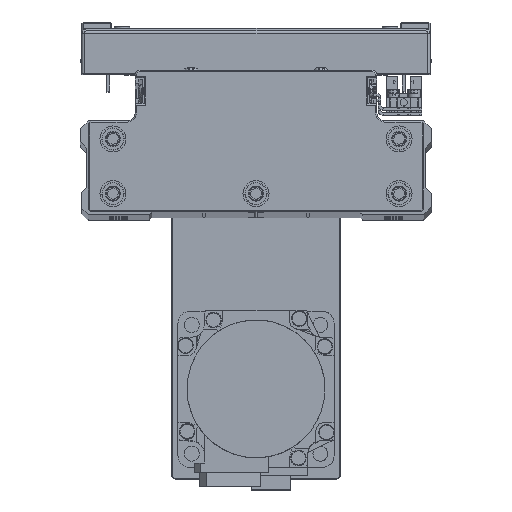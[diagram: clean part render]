
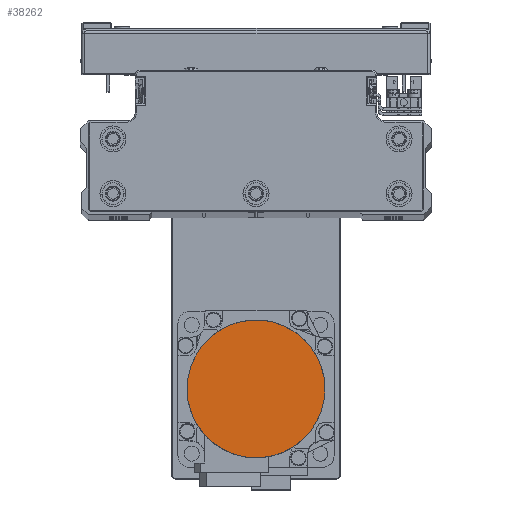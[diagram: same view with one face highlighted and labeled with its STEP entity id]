
A CAD part, top view. The second image highlights one B-rep face of the part: STEP entity #38262.
In plain terms, the highlighted planar face has unit normal (0, 0, 1) as drawn and (0, 0, -1) by its records, which use the part's own axes.
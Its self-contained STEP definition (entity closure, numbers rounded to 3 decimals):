
#388 = CARTESIAN_POINT ( 'NONE',  ( -26.329, -3.469, -109.7 ) ) ;
#619 = CARTESIAN_POINT ( 'NONE',  ( -3.469, -26.329, -109.7 ) ) ;
#645 = EDGE_CURVE ( 'NONE', #42528, #25413, #13534, .T. ) ;
#836 = CARTESIAN_POINT ( 'NONE',  ( 23.819, -11.744, -109.7 ) ) ;
#1068 = CARTESIAN_POINT ( 'NONE',  ( 19.965, 17.512, -109.7 ) ) ;
#1300 = CARTESIAN_POINT ( 'NONE',  ( -11.744, 23.819, -109.7 ) ) ;
#1998 = ORIENTED_EDGE ( 'NONE', *, *, #42214, .F. ) ;
#4004 = CARTESIAN_POINT ( 'NONE',  ( -11.744, -23.819, -109.7 ) ) ;
#4230 = CARTESIAN_POINT ( 'NONE',  ( 19.965, -17.512, -109.7 ) ) ;
#4456 = CARTESIAN_POINT ( 'NONE',  ( 23.819, 11.744, -109.7 ) ) ;
#4639 = ORIENTED_EDGE ( 'NONE', *, *, #645, .F. ) ;
#4676 = CARTESIAN_POINT ( 'NONE',  ( -3.469, 26.329, -109.7 ) ) ;
#4903 = CARTESIAN_POINT ( 'NONE',  ( -26.329, 3.469, -109.7 ) ) ;
#7367 = CARTESIAN_POINT ( 'NONE',  ( -17.512, -19.965, -109.7 ) ) ;
#7600 = CARTESIAN_POINT ( 'NONE',  ( 13.28, -22.998, -109.7 ) ) ;
#7836 = CARTESIAN_POINT ( 'NONE',  ( 26.329, 3.469, -109.7 ) ) ;
#8044 = CARTESIAN_POINT ( 'NONE',  ( 3.469, 26.329, -109.7 ) ) ;
#8266 = CARTESIAN_POINT ( 'NONE',  ( -23.819, 11.744, -109.7 ) ) ;
#10771 = CARTESIAN_POINT ( 'NONE',  ( -22.998, -13.28, -109.7 ) ) ;
#10982 = CARTESIAN_POINT ( 'NONE',  ( 6.871, -25.652, -109.7 ) ) ;
#11115 = CARTESIAN_POINT ( 'NONE',  ( 0., 0., -109.7 ) ) ;
#11209 = CARTESIAN_POINT ( 'NONE',  ( 26.5, -1.734, -109.7 ) ) ;
#11442 = CARTESIAN_POINT ( 'NONE',  ( 11.744, 23.819, -109.7 ) ) ;
#11650 = CARTESIAN_POINT ( 'NONE',  ( -19.965, 17.512, -109.7 ) ) ;
#13534 = B_SPLINE_CURVE_WITH_KNOTS ( 'NONE', 3,
 ( #25005, #38770, #7836, #21608, #35376, #4456, #18186, #31990, #1068, #14823, #28614, #42377, #11442, #25225, #38983, #8044, #21810, #35584, #4676, #18418, #32229, #1300, #15042, #28830, #42595, #11650, #25424, #39197, #8266, #22045, #35816, #4903, #18643, #32443 ),
 .UNSPECIFIED., .F., .F.,
 ( 4, 2, 2, 2, 2, 2, 2, 2, 2, 2, 2, 2, 2, 2, 2, 2, 4 ),
 ( 0., 0.062, 0.125, 0.187, 0.25, 0.312, 0.375, 0.437, 0.5, 0.562, 0.625, 0.687, 0.75, 0.813, 0.875, 0.938, 1. ),
 .UNSPECIFIED. ) ;
#14148 = CARTESIAN_POINT ( 'NONE',  ( -25.652, -6.871, -109.7 ) ) ;
#14371 = CARTESIAN_POINT ( 'NONE',  ( -1.734, -26.5, -109.7 ) ) ;
#14578 = CARTESIAN_POINT ( 'NONE',  ( 25.147, -8.539, -109.7 ) ) ;
#14823 = CARTESIAN_POINT ( 'NONE',  ( 17.512, 19.965, -109.7 ) ) ;
#15042 = CARTESIAN_POINT ( 'NONE',  ( -13.28, 22.998, -109.7 ) ) ;
#17508 = CARTESIAN_POINT ( 'NONE',  ( -26.5, 0., -109.7 ) ) ;
#17743 = CARTESIAN_POINT ( 'NONE',  ( -8.539, -25.147, -109.7 ) ) ;
#17970 = CARTESIAN_POINT ( 'NONE',  ( 21.07, -16.165, -109.7 ) ) ;
#18186 = CARTESIAN_POINT ( 'NONE',  ( 22.998, 13.28, -109.7 ) ) ;
#18418 = CARTESIAN_POINT ( 'NONE',  ( -6.871, 25.652, -109.7 ) ) ;
#18643 = CARTESIAN_POINT ( 'NONE',  ( -26.5, 1.734, -109.7 ) ) ;
#21125 = CARTESIAN_POINT ( 'NONE',  ( -16.165, -21.07, -109.7 ) ) ;
#21368 = CARTESIAN_POINT ( 'NONE',  ( 16.165, -21.07, -109.7 ) ) ;
#21608 = CARTESIAN_POINT ( 'NONE',  ( 25.652, 6.871, -109.7 ) ) ;
#21810 = CARTESIAN_POINT ( 'NONE',  ( 1.734, 26.5, -109.7 ) ) ;
#22045 = CARTESIAN_POINT ( 'NONE',  ( -25.147, 8.539, -109.7 ) ) ;
#24545 = CARTESIAN_POINT ( 'NONE',  ( -21.07, -16.165, -109.7 ) ) ;
#24757 = CARTESIAN_POINT ( 'NONE',  ( 8.539, -25.147, -109.7 ) ) ;
#24903 = DIRECTION ( 'NONE',  ( 0., 0., 1. ) ) ;
#24997 = CARTESIAN_POINT ( 'NONE',  ( 26.5, 0., -109.7 ) ) ;
#25005 = CARTESIAN_POINT ( 'NONE',  ( 26.5, 0., -109.7 ) ) ;
#25225 = CARTESIAN_POINT ( 'NONE',  ( 8.539, 25.147, -109.7 ) ) ;
#25405 = AXIS2_PLACEMENT_3D ( 'NONE', #11115, #24903, #38675 ) ;
#25413 = VERTEX_POINT ( 'NONE', #36549 ) ;
#25424 = CARTESIAN_POINT ( 'NONE',  ( -21.07, 16.165, -109.7 ) ) ;
#27934 = CARTESIAN_POINT ( 'NONE',  ( -25.147, -8.539, -109.7 ) ) ;
#28156 = CARTESIAN_POINT ( 'NONE',  ( 1.734, -26.5, -109.7 ) ) ;
#28273 = FACE_OUTER_BOUND ( 'NONE', #43506, .T. ) ;
#28364 = CARTESIAN_POINT ( 'NONE',  ( 25.652, -6.871, -109.7 ) ) ;
#28614 = CARTESIAN_POINT ( 'NONE',  ( 16.165, 21.07, -109.7 ) ) ;
#28830 = CARTESIAN_POINT ( 'NONE',  ( -16.165, 21.07, -109.7 ) ) ;
#31305 = CARTESIAN_POINT ( 'NONE',  ( -26.5, -1.734, -109.7 ) ) ;
#31545 = CARTESIAN_POINT ( 'NONE',  ( -6.871, -25.652, -109.7 ) ) ;
#31769 = CARTESIAN_POINT ( 'NONE',  ( 22.998, -13.28, -109.7 ) ) ;
#31990 = CARTESIAN_POINT ( 'NONE',  ( 21.07, 16.165, -109.7 ) ) ;
#32229 = CARTESIAN_POINT ( 'NONE',  ( -8.539, 25.147, -109.7 ) ) ;
#32443 = CARTESIAN_POINT ( 'NONE',  ( -26.5, 0., -109.7 ) ) ;
#34069 = B_SPLINE_CURVE_WITH_KNOTS ( 'NONE', 3,
 ( #17508, #31305, #388, #14148, #27934, #41698, #10771, #24545, #38306, #7367, #21125, #34914, #4004, #17743, #31545, #619, #14371, #28156, #41916, #10982, #24757, #38526, #7600, #21368, #35148, #4230, #17970, #31769, #836, #14578, #28364, #42138, #11209, #24997 ),
 .UNSPECIFIED., .F., .F.,
 ( 4, 2, 2, 2, 2, 2, 2, 2, 2, 2, 2, 2, 2, 2, 2, 2, 4 ),
 ( 0., 0.063, 0.125, 0.188, 0.25, 0.312, 0.375, 0.437, 0.5, 0.562, 0.625, 0.687, 0.75, 0.813, 0.875, 0.938, 1. ),
 .UNSPECIFIED. ) ;
#34914 = CARTESIAN_POINT ( 'NONE',  ( -13.28, -22.998, -109.7 ) ) ;
#35148 = CARTESIAN_POINT ( 'NONE',  ( 17.512, -19.965, -109.7 ) ) ;
#35376 = CARTESIAN_POINT ( 'NONE',  ( 25.147, 8.539, -109.7 ) ) ;
#35584 = CARTESIAN_POINT ( 'NONE',  ( -1.734, 26.5, -109.7 ) ) ;
#35816 = CARTESIAN_POINT ( 'NONE',  ( -25.652, 6.871, -109.7 ) ) ;
#36549 = CARTESIAN_POINT ( 'NONE',  ( -26.5, 0., -109.7 ) ) ;
#38262 = ADVANCED_FACE ( 'NONE', ( #28273 ), #42044, .F. ) ;
#38306 = CARTESIAN_POINT ( 'NONE',  ( -19.965, -17.512, -109.7 ) ) ;
#38526 = CARTESIAN_POINT ( 'NONE',  ( 11.744, -23.819, -109.7 ) ) ;
#38675 = DIRECTION ( 'NONE',  ( 1., 0., 0. ) ) ;
#38770 = CARTESIAN_POINT ( 'NONE',  ( 26.5, 1.734, -109.7 ) ) ;
#38983 = CARTESIAN_POINT ( 'NONE',  ( 6.871, 25.652, -109.7 ) ) ;
#39197 = CARTESIAN_POINT ( 'NONE',  ( -22.998, 13.28, -109.7 ) ) ;
#41415 = CARTESIAN_POINT ( 'NONE',  ( 26.5, 0., -109.7 ) ) ;
#41698 = CARTESIAN_POINT ( 'NONE',  ( -23.819, -11.744, -109.7 ) ) ;
#41916 = CARTESIAN_POINT ( 'NONE',  ( 3.469, -26.329, -109.7 ) ) ;
#42044 = PLANE ( 'NONE',  #25405 ) ;
#42138 = CARTESIAN_POINT ( 'NONE',  ( 26.329, -3.469, -109.7 ) ) ;
#42214 = EDGE_CURVE ( 'NONE', #25413, #42528, #34069, .T. ) ;
#42377 = CARTESIAN_POINT ( 'NONE',  ( 13.28, 22.998, -109.7 ) ) ;
#42528 = VERTEX_POINT ( 'NONE', #41415 ) ;
#42595 = CARTESIAN_POINT ( 'NONE',  ( -17.512, 19.965, -109.7 ) ) ;
#43506 = EDGE_LOOP ( 'NONE', ( #4639, #1998 ) ) ;
